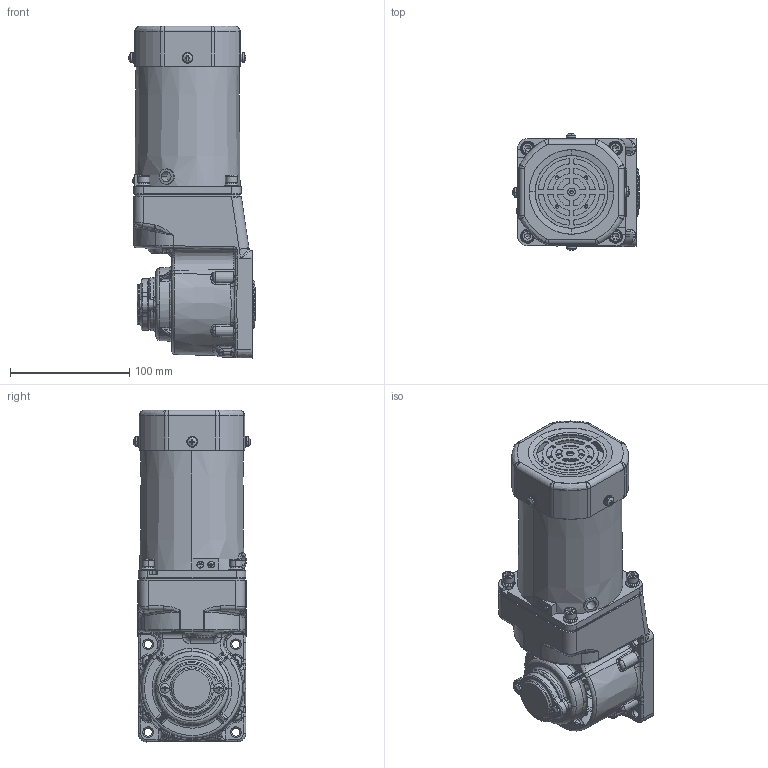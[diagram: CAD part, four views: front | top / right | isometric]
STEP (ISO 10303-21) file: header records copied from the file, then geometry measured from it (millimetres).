
FILE_DESCRIPTION (( 'STEP AP203' ), '1' );
FILE_NAME ('5IK90GU-CF(5GU3RC-180RC)ÐÂ.STEP', '2022-02-23T07:07:56', ( 'PC' ), ( 'Microsoft' ), 'SwSTEP 2.0', 'SolidWorks 2014', '' );
FILE_SCHEMA (( 'CONFIG_CONTROL_DESIGN' ));
Length unit declared in the file: millimetre
Products named in the file (8): cross recessed pan head screws gb_GB_CROSS_SCREWS_TYPE1 M4X6-6  H type-N; 5IK90GU-CF(5GU3RT-180RT); 5IK90GU-CF(5GU3RC-180RC)陔; 90妗陑俋倛芞; 90RT妗陑怀堤傷裔; 90諾陑怀堤粣; hexagon socket head cap screws gb_GB_FASTENER_SCREWS_HSHCS M5X12-N; ZD-5GU50RC-505-003綴傷裔1
Assembly tree (11 placements, depth 2):
  5IK90GU-CF(5GU3RC-180RC)陔
    90妗陑俋倛芞
    90RT妗陑怀堤傷裔
    90諾陑怀堤粣
    hexagon socket head cap screws gb_GB_FASTENER_SCREWS_HSHCS M5X12-N  x4
    ZD-5GU50RC-505-003綴傷裔1
    cross recessed pan head screws gb_GB_CROSS_SCREWS_TYPE1 M4X6-6  H type-N  x2
    5IK90GU-CF(5GU3RT-180RT)
Bounding box: 106 x 98.11 x 278.04 mm (x, y, z)
Volume: 1563790 mm3; surface area: 204837.3 mm2
Topology: 41 solids, 41 shells, 2219 faces, 5498 edges, 3305 vertices
Faces by surface type: plane 658, cylinder 559, bspline 500, cone 413, torus 85, sphere 4
Entity records: 90664 total; most frequent: CARTESIAN_POINT 43318, ORIENTED_EDGE 10292, DIRECTION 8972, EDGE_CURVE 5146, AXIS2_PLACEMENT_3D 3556, VERTEX_POINT 3162, EDGE_LOOP 2266, ADVANCED_FACE 2119
